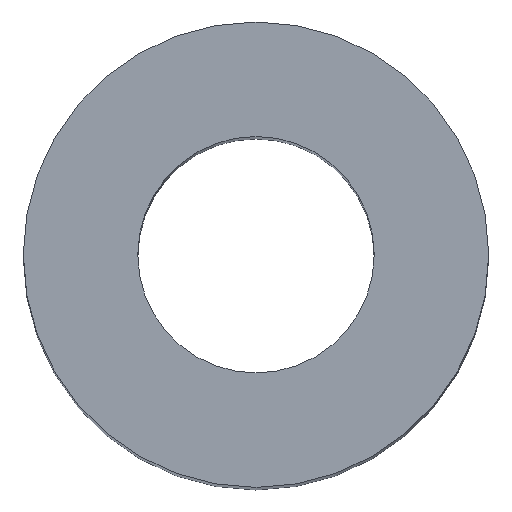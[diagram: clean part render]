
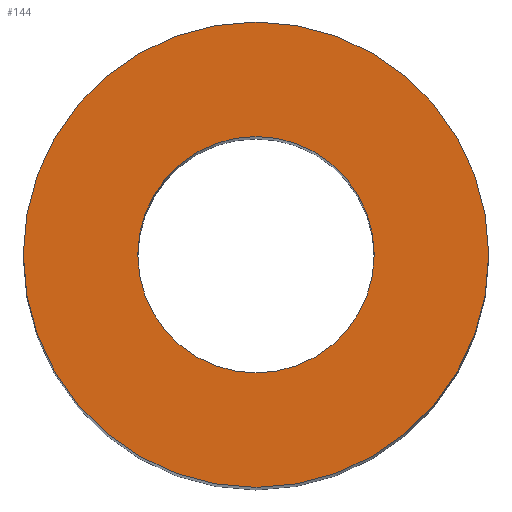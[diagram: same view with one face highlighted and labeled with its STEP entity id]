
A CAD part, top view. The second image highlights one B-rep face of the part: STEP entity #144.
In plain terms, the highlighted planar face has unit normal (0, 0, 1).
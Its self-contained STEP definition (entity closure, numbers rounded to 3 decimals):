
#24 = VERTEX_POINT('',#25);
#25 = CARTESIAN_POINT('',(1.575,0.,-1.65));
#32 = CYLINDRICAL_SURFACE('',#33,1.575);
#33 = AXIS2_PLACEMENT_3D('',#34,#35,#36);
#34 = CARTESIAN_POINT('',(0.,0.,-11.65));
#35 = DIRECTION('',(-0.,-0.,-1.));
#36 = DIRECTION('',(1.,0.,0.));
#51 = EDGE_CURVE('',#24,#24,#52,.T.);
#52 = SURFACE_CURVE('',#53,(#58,#65),.PCURVE_S1.);
#53 = CIRCLE('',#54,1.575);
#54 = AXIS2_PLACEMENT_3D('',#55,#56,#57);
#55 = CARTESIAN_POINT('',(0.,0.,-1.65));
#56 = DIRECTION('',(0.,0.,1.));
#57 = DIRECTION('',(1.,0.,0.));
#58 = PCURVE('',#32,#59);
#59 = DEFINITIONAL_REPRESENTATION('',(#60),#64);
#60 = LINE('',#61,#62);
#61 = CARTESIAN_POINT('',(-0.,-10.));
#62 = VECTOR('',#63,1.);
#63 = DIRECTION('',(-1.,0.));
#64 = ( GEOMETRIC_REPRESENTATION_CONTEXT(2) 
PARAMETRIC_REPRESENTATION_CONTEXT() REPRESENTATION_CONTEXT('2D SPACE',''
  ) );
#65 = PCURVE('',#66,#71);
#66 = PLANE('',#67);
#67 = AXIS2_PLACEMENT_3D('',#68,#69,#70);
#68 = CARTESIAN_POINT('',(0.,0.,-1.65)
  );
#69 = DIRECTION('',(0.,0.,1.));
#70 = DIRECTION('',(1.,0.,-0.));
#71 = DEFINITIONAL_REPRESENTATION('',(#72),#76);
#72 = CIRCLE('',#73,1.575);
#73 = AXIS2_PLACEMENT_2D('',#74,#75);
#74 = CARTESIAN_POINT('',(0.,0.));
#75 = DIRECTION('',(1.,0.));
#76 = ( GEOMETRIC_REPRESENTATION_CONTEXT(2) 
PARAMETRIC_REPRESENTATION_CONTEXT() REPRESENTATION_CONTEXT('2D SPACE',''
  ) );
#144 = ADVANCED_FACE('',(#145,#148),#66,.T.);
#145 = FACE_BOUND('',#146,.T.);
#146 = EDGE_LOOP('',(#147));
#147 = ORIENTED_EDGE('',*,*,#51,.T.);
#148 = FACE_BOUND('',#149,.T.);
#149 = EDGE_LOOP('',(#150));
#150 = ORIENTED_EDGE('',*,*,#151,.F.);
#151 = EDGE_CURVE('',#152,#152,#154,.T.);
#152 = VERTEX_POINT('',#153);
#153 = CARTESIAN_POINT('',(0.8,0.,-1.65));
#154 = SURFACE_CURVE('',#155,(#160,#167),.PCURVE_S1.);
#155 = CIRCLE('',#156,0.8);
#156 = AXIS2_PLACEMENT_3D('',#157,#158,#159);
#157 = CARTESIAN_POINT('',(0.,0.,-1.65));
#158 = DIRECTION('',(0.,0.,1.));
#159 = DIRECTION('',(1.,0.,0.));
#160 = PCURVE('',#66,#161);
#161 = DEFINITIONAL_REPRESENTATION('',(#162),#166);
#162 = CIRCLE('',#163,0.8);
#163 = AXIS2_PLACEMENT_2D('',#164,#165);
#164 = CARTESIAN_POINT('',(0.,0.));
#165 = DIRECTION('',(1.,0.));
#166 = ( GEOMETRIC_REPRESENTATION_CONTEXT(2) 
PARAMETRIC_REPRESENTATION_CONTEXT() REPRESENTATION_CONTEXT('2D SPACE',''
  ) );
#167 = PCURVE('',#168,#173);
#168 = CYLINDRICAL_SURFACE('',#169,0.8);
#169 = AXIS2_PLACEMENT_3D('',#170,#171,#172);
#170 = CARTESIAN_POINT('',(0.,0.,-11.65)
  );
#171 = DIRECTION('',(-0.,-0.,-1.));
#172 = DIRECTION('',(1.,0.,0.));
#173 = DEFINITIONAL_REPRESENTATION('',(#174),#178);
#174 = LINE('',#175,#176);
#175 = CARTESIAN_POINT('',(-0.,-10.));
#176 = VECTOR('',#177,1.);
#177 = DIRECTION('',(-1.,0.));
#178 = ( GEOMETRIC_REPRESENTATION_CONTEXT(2) 
PARAMETRIC_REPRESENTATION_CONTEXT() REPRESENTATION_CONTEXT('2D SPACE',''
  ) );
